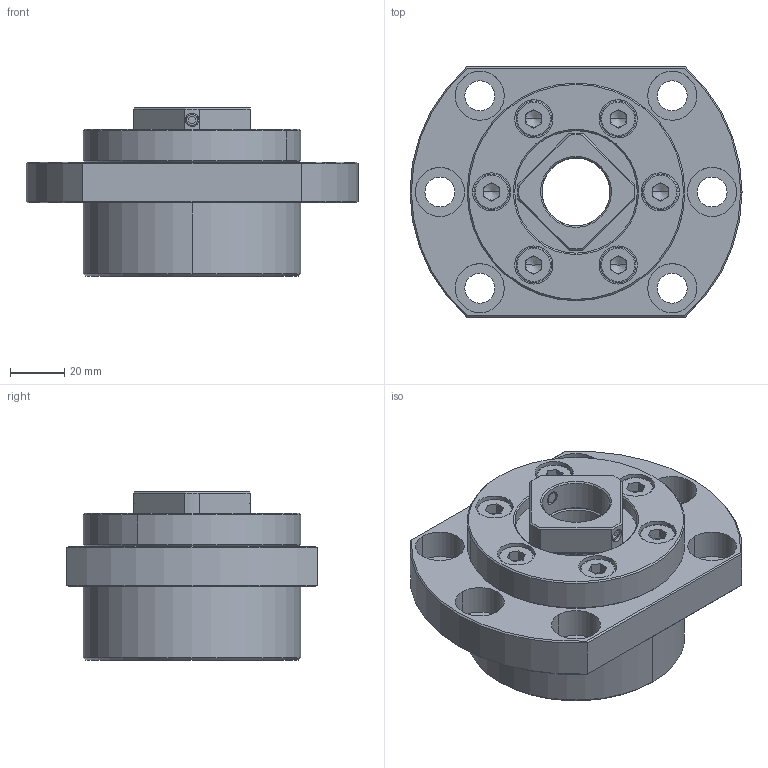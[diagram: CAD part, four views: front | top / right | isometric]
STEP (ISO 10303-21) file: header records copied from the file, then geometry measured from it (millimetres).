
FILE_DESCRIPTION (( 'STEP AP203' ), '1' );
FILE_NAME ('FK-25D P0-C7.STEP', '2016-08-22T00:47:18', ( '' ), ( '' ), 'SwSTEP 2.0', 'SolidWorks 2016', '' );
FILE_SCHEMA (( 'CONFIG_CONTROL_DESIGN' ));
Length unit declared in the file: millimetre
Products named in the file (1): FK-25D P0-C7
Bounding box: 122 x 92 x 62 mm (x, y, z)
Volume: 284075.2 mm3; surface area: 77432.5 mm2
Topology: 5 solids, 8 shells, 490 faces, 1081 edges, 636 vertices
Faces by surface type: plane 165, cylinder 160, cone 105, torus 60
Entity records: 13627 total; most frequent: DIRECTION 2556, CARTESIAN_POINT 2496, ORIENTED_EDGE 2106, EDGE_CURVE 1053, AXIS2_PLACEMENT_3D 1044, VERTEX_POINT 636, EDGE_LOOP 571, CIRCLE 553
